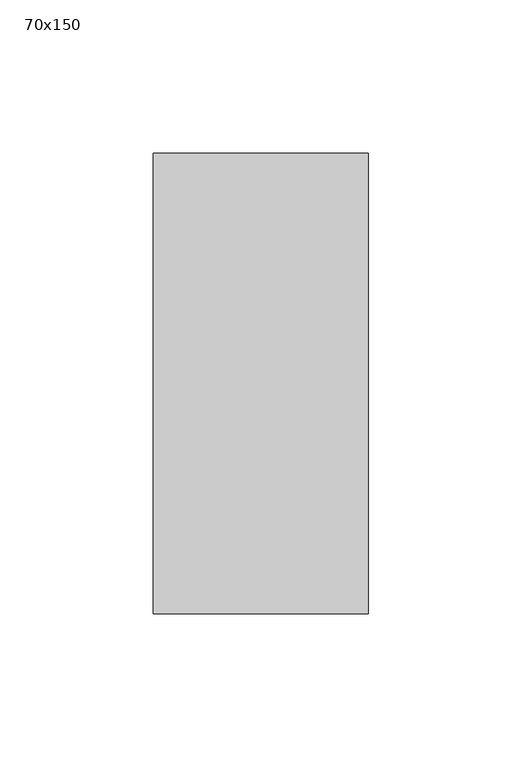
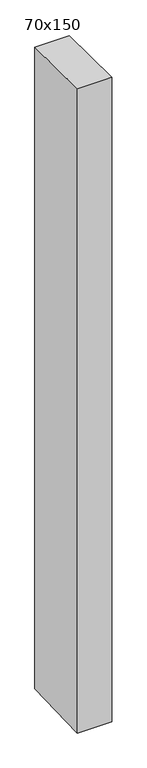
"""IFC4 building model written with IfcOpenShell, lengths in millimetres: member geometry, 長方形のマリオン : 70x150."""

from ifc_helpers import new_model, si_unit, frame, origin, place, context, project, spatial, polyline, outline, extrude, source, transform, mapped, element, save


def member_70x150_32e9e373(model_context):
    return source(origin(), model_context, "Body", "SweptSolid", [
        extrude(outline(polyline([(-75.0, 0.977983), (75.0, -0.977983), (75.0, -1383.2914966), (-75.0, -1387.8351951), (-75.0, 0.977983)])), frame((-70.0, 0.0, 0.0), z_axis=(1.0, 0.0, 0.0), x_axis=(0.0, 1.0, 0.0)), (0.0, 0.0, 1.0), 70.0),
    ])


if __name__ == "__main__":
    model = new_model("IFC4")
    model_context = context("Model", 3, world=origin())
    ifc_project = project(units=[si_unit("LENGTHUNIT", "METRE", prefix="MILLI")], contexts=[model_context])
    site = spatial("IfcSite", under=ifc_project)
    building = spatial("IfcBuilding", under=site)
    placement = place(None, origin())
    member_70x150_shape = member_70x150_32e9e373(model_context)
    element("IfcMember", 1, ObjectType="長方形のマリオン : 70x150", at=placement, inside=building, context=model_context, shape_type="MappedRepresentation", body=[
        mapped(member_70x150_shape, transform((0.0, 0.0, 0.0), x_axis=(1.0, 0.0, 0.0), y_axis=(0.0, 1.0, 0.0), z_axis=(0.0, 0.0, 1.0))),
    ])
    save(model, "model.ifc")
